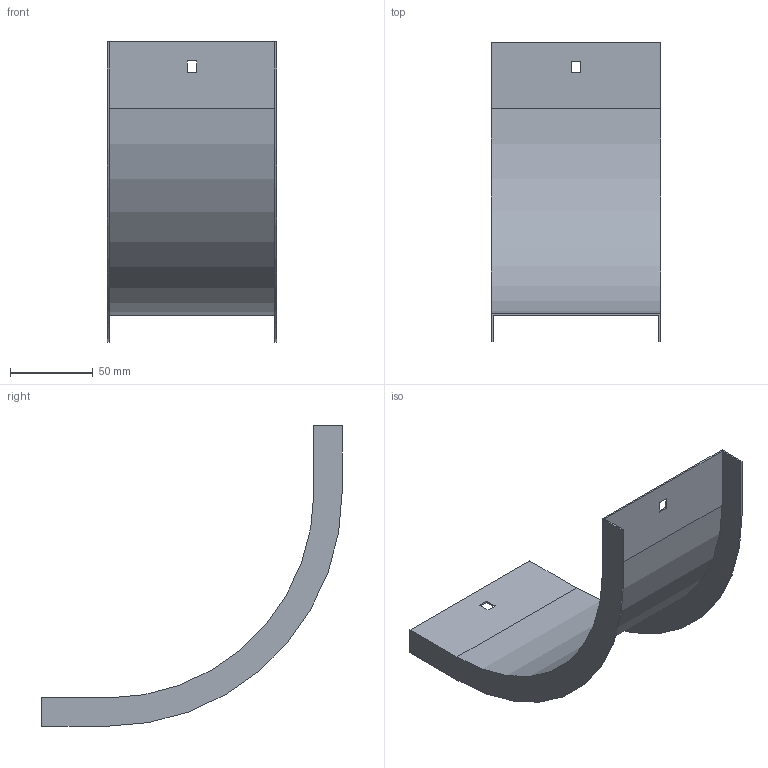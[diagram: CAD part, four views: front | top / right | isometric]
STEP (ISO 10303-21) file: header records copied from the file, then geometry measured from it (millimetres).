
FILE_DESCRIPTION (( 'STEP AP214' ), '1' );
FILE_NAME ('OS9_100.step', '2025-07-16T09:17:10', ( '' ), ( '' ), 'SwSTEP 2.0', 'SolidWorks 2023', '' );
FILE_SCHEMA (( 'AUTOMOTIVE_DESIGN' ));
Length unit declared in the file: millimetre
Products named in the file (1): OS9_100
Bounding box: 102 x 181 x 181 mm (x, y, z)
Volume: 37268.9 mm3; surface area: 75459.1 mm2
Topology: 1 solids, 1 shells, 26 faces, 72 edges, 48 vertices
Faces by surface type: plane 22, cylinder 4
Entity records: 855 total; most frequent: CARTESIAN_POINT 147, ORIENTED_EDGE 144, DIRECTION 134, EDGE_CURVE 72, VECTOR 64, LINE 64, VERTEX_POINT 48, AXIS2_PLACEMENT_3D 35
